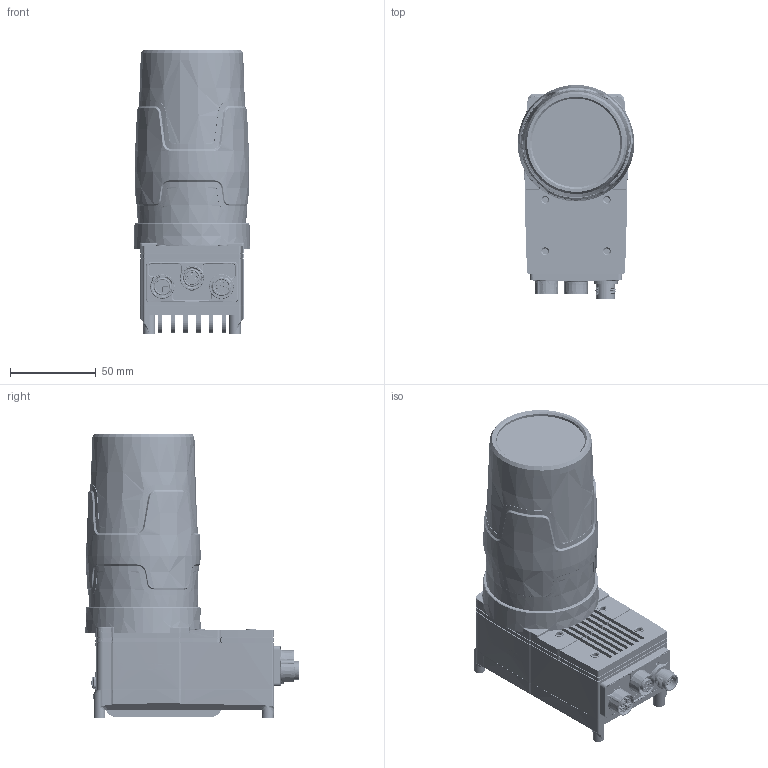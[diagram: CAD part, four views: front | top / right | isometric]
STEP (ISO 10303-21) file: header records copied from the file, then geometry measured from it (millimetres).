
FILE_DESCRIPTION (( 'STEP AP214' ), '1' );
FILE_NAME ('IS017-03_6-27-18.STEP', '2018-07-12T16:48:41', ( '' ), ( '' ), 'SwSTEP 2.0', 'SolidWorks 2018', '' );
FILE_SCHEMA (( 'AUTOMOTIVE_DESIGN' ));
Length unit declared in the file: millimetre
Products named in the file (1): IS017-03_6-27-18
Bounding box: 68.03 x 124.84 x 165.7 mm (x, y, z)
Volume: 332458.4 mm3; surface area: 147086 mm2
Topology: 7 solids, 73 shells, 5010 faces, 13216 edges, 8515 vertices
Faces by surface type: plane 1757, cylinder 1579, bspline 851, cone 603, torus 162, sphere 58
Entity records: 276175 total; most frequent: CARTESIAN_POINT 104499, ORIENTED_EDGE 26266, DIRECTION 22045, EDGE_CURVE 13133, VERTEX_POINT 8511, AXIS2_PLACEMENT_3D 8216, VECTOR 5613, LINE 5613
